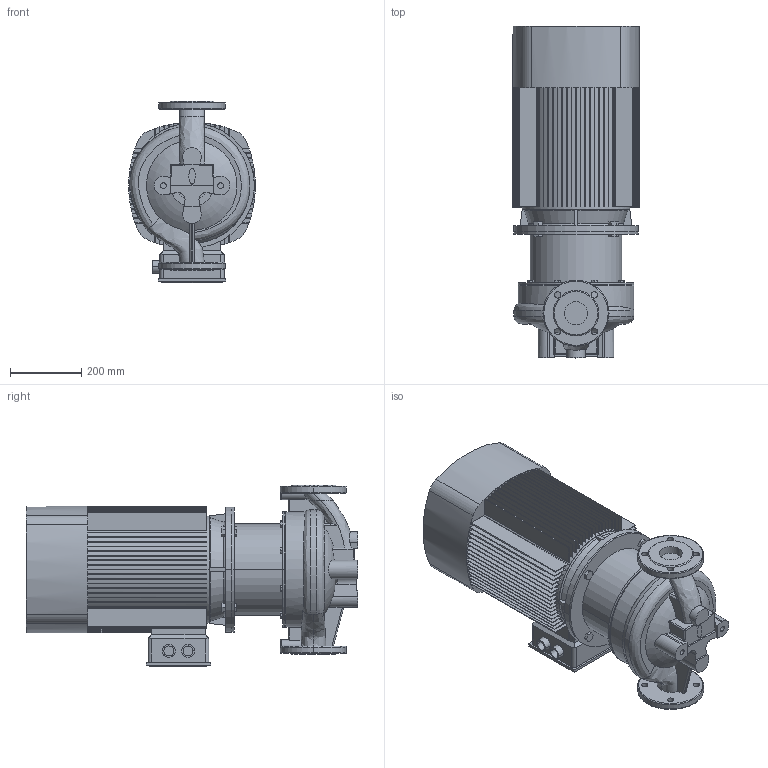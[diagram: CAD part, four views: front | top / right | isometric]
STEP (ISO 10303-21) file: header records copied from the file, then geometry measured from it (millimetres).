
FILE_DESCRIPTION (( 'STEP AP203' ), '1' );
FILE_NAME ('TD65-68G_2.STEP', '2022-04-28T15:05:03', ( '' ), ( '' ), 'SwSTEP 2.0', 'SolidWorks 2019', '' );
FILE_SCHEMA (( 'CONFIG_CONTROL_DESIGN' ));
Length unit declared in the file: millimetre
Products named in the file (4): Pr_ch 65 - 61_68_85_TD65-68G_2; Fon_65_TD65-68G_2; TD65-68G_2; ED_B5_YE2-180M-2 (22)
Assembly tree (3 placements, depth 2):
  TD65-68G_2
    Pr_ch 65 - 61_68_85_TD65-68G_2
    Fon_65_TD65-68G_2
    ED_B5_YE2-180M-2 (22)
Bounding box: 355 x 930 x 510 mm (x, y, z)
Volume: 66845614.7 mm3; surface area: 3404033.2 mm2
Topology: 5 solids, 6 shells, 719 faces, 1977 edges, 1301 vertices
Faces by surface type: plane 505, cylinder 142, torus 28, bspline 25, cone 17, sphere 2
Entity records: 30437 total; most frequent: CARTESIAN_POINT 11457, ORIENTED_EDGE 3950, DIRECTION 3875, EDGE_CURVE 1975, AXIS2_PLACEMENT_3D 1352, VERTEX_POINT 1301, VECTOR 1171, LINE 1171
